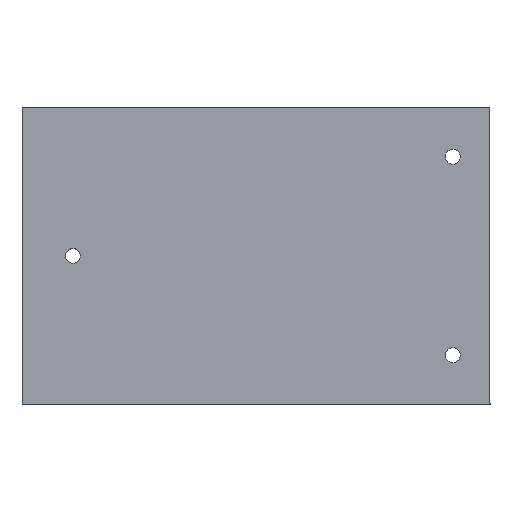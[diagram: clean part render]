
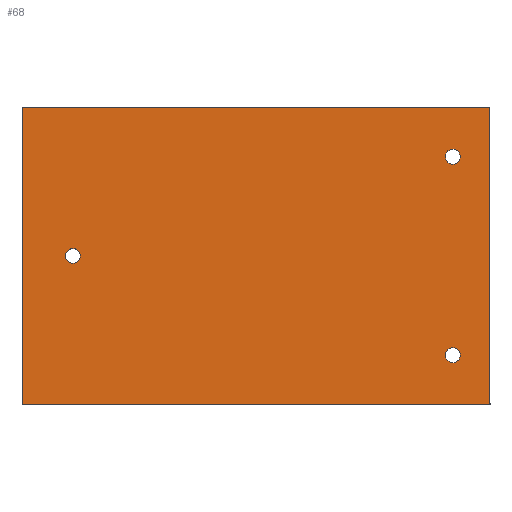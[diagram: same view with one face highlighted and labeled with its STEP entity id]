
A CAD part, top view. The second image highlights one B-rep face of the part: STEP entity #68.
In plain terms, the highlighted planar face has unit normal (0, 0, 1).
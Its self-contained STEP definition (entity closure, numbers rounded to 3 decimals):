
#68=ADVANCED_FACE('',(#108,#109,#110,#111),#112,.F.);
#108=FACE_OUTER_BOUND('',#151,.T.);
#109=FACE_BOUND('',#152,.T.);
#110=FACE_BOUND('',#153,.T.);
#111=FACE_BOUND('',#154,.T.);
#112=PLANE('',#155);
#151=EDGE_LOOP('',(#294,#295,#296,#297));
#152=EDGE_LOOP('',(#298,#299));
#153=EDGE_LOOP('',(#300,#301));
#154=EDGE_LOOP('',(#302,#303));
#155=AXIS2_PLACEMENT_3D('',#304,#305,#306);
#294=ORIENTED_EDGE('',*,*,#347,.T.);
#295=ORIENTED_EDGE('',*,*,#355,.F.);
#296=ORIENTED_EDGE('',*,*,#351,.F.);
#297=ORIENTED_EDGE('',*,*,#352,.F.);
#298=ORIENTED_EDGE('',*,*,#309,.T.);
#299=ORIENTED_EDGE('',*,*,#343,.T.);
#300=ORIENTED_EDGE('',*,*,#314,.T.);
#301=ORIENTED_EDGE('',*,*,#342,.T.);
#302=ORIENTED_EDGE('',*,*,#341,.T.);
#303=ORIENTED_EDGE('',*,*,#319,.T.);
#304=CARTESIAN_POINT('',(-104.886,1.445,10.));
#305=DIRECTION('',(0.,0.,-1.0));
#306=DIRECTION('',(0.,-1.0,0.0));
#309=EDGE_CURVE('',#359,#356,#360,.T.);
#314=EDGE_CURVE('',#369,#366,#370,.T.);
#319=EDGE_CURVE('',#379,#376,#380,.T.);
#341=EDGE_CURVE('',#376,#379,#413,.T.);
#342=EDGE_CURVE('',#366,#369,#414,.T.);
#343=EDGE_CURVE('',#356,#359,#415,.T.);
#347=EDGE_CURVE('',#417,#421,#423,.T.);
#351=EDGE_CURVE('',#429,#425,#431,.T.);
#352=EDGE_CURVE('',#417,#429,#432,.T.);
#355=EDGE_CURVE('',#425,#421,#435,.T.);
#356=VERTEX_POINT('',#436);
#359=VERTEX_POINT('',#440);
#360=CIRCLE('',#441,3.0);
#366=VERTEX_POINT('',#448);
#369=VERTEX_POINT('',#452);
#370=CIRCLE('',#453,3.0);
#376=VERTEX_POINT('',#460);
#379=VERTEX_POINT('',#464);
#380=CIRCLE('',#465,3.0);
#413=CIRCLE('',#505,3.0);
#414=CIRCLE('',#506,3.0);
#415=CIRCLE('',#507,3.0);
#417=VERTEX_POINT('',#509);
#421=VERTEX_POINT('',#515);
#423=LINE('',#518,#519);
#425=VERTEX_POINT('',#521);
#429=VERTEX_POINT('',#527);
#431=LINE('',#530,#531);
#432=LINE('',#532,#533);
#435=LINE('',#538,#539);
#436=CARTESIAN_POINT('',(-15.,-43.034,10.));
#440=CARTESIAN_POINT('',(-15.,-37.034,10.));
#441=AXIS2_PLACEMENT_3D('',#541,#542,#543);
#448=CARTESIAN_POINT('',(-15.,42.966,10.));
#452=CARTESIAN_POINT('',(-15.,36.966,10.));
#453=AXIS2_PLACEMENT_3D('',#552,#553,#554);
#460=CARTESIAN_POINT('',(-168.0,-3.034,10.));
#464=CARTESIAN_POINT('',(-168.0,2.966,10.));
#465=AXIS2_PLACEMENT_3D('',#563,#564,#565);
#505=AXIS2_PLACEMENT_3D('',#615,#616,#617);
#506=AXIS2_PLACEMENT_3D('',#618,#619,#620);
#507=AXIS2_PLACEMENT_3D('',#621,#622,#623);
#509=CARTESIAN_POINT('',(-188.502,59.966,10.));
#515=CARTESIAN_POINT('',(-188.502,-60.034,10.));
#518=CARTESIAN_POINT('',(-188.502,-70.033,10.));
#519=VECTOR('',#627,1.0);
#521=CARTESIAN_POINT('',(0.,-60.034,10.));
#527=CARTESIAN_POINT('',(0.,59.966,10.));
#530=CARTESIAN_POINT('',(0.,59.966,10.));
#531=VECTOR('',#631,1.0);
#532=CARTESIAN_POINT('',(-188.502,59.966,10.));
#533=VECTOR('',#632,1.0);
#538=CARTESIAN_POINT('',(0.,-60.034,10.));
#539=VECTOR('',#635,1.0);
#541=CARTESIAN_POINT('',(-15.,-40.034,10.));
#542=DIRECTION('',(0.,0.,-1.0));
#543=DIRECTION('',(0.,-1.0,0.));
#552=CARTESIAN_POINT('',(-15.,39.966,10.));
#553=DIRECTION('',(0.,0.,-1.0));
#554=DIRECTION('',(0.,1.0,0.));
#563=CARTESIAN_POINT('',(-168.0,-0.034,10.));
#564=DIRECTION('',(0.,0.,-1.0));
#565=DIRECTION('',(0.,-1.0,0.));
#615=CARTESIAN_POINT('',(-168.0,-0.034,10.));
#616=DIRECTION('',(0.,0.,-1.0));
#617=DIRECTION('',(0.,-1.0,0.));
#618=CARTESIAN_POINT('',(-15.,39.966,10.));
#619=DIRECTION('',(0.,0.,-1.0));
#620=DIRECTION('',(0.,1.0,0.));
#621=CARTESIAN_POINT('',(-15.,-40.034,10.));
#622=DIRECTION('',(0.,0.,-1.0));
#623=DIRECTION('',(0.,-1.0,0.));
#627=DIRECTION('',(0.,-1.0,0.));
#631=DIRECTION('',(0.,-1.0,0.));
#632=DIRECTION('',(1.0,0.,0.));
#635=DIRECTION('',(-1.0,0.,0.));
